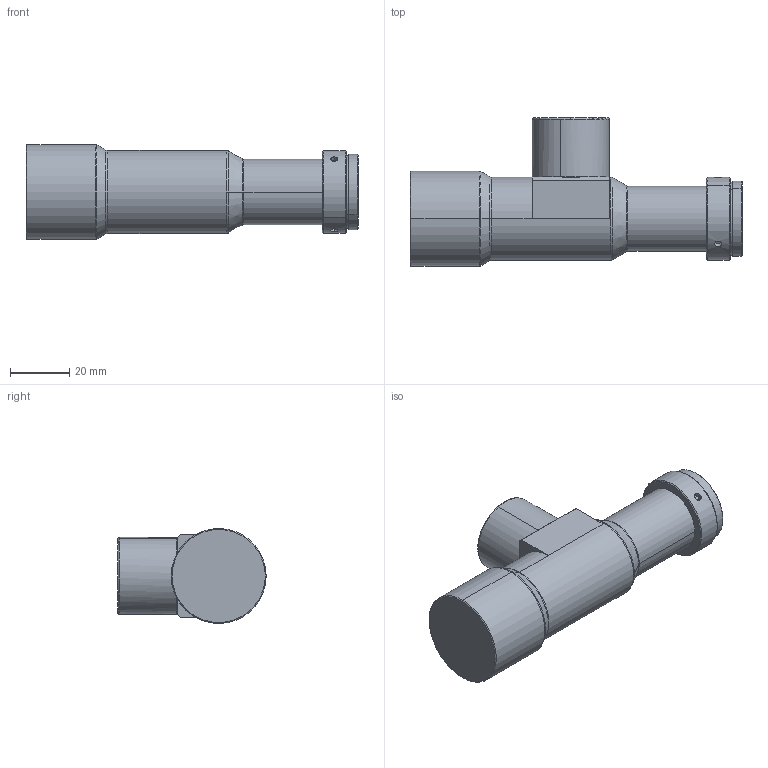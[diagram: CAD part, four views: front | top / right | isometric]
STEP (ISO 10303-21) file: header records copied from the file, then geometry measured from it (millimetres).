
FILE_DESCRIPTION (( 'STEP AP203' ), '1' );
FILE_NAME ('WWH10-108CTLV3.STEP', '2023-08-15T00:45:29', ( '' ), ( '' ), 'SwSTEP 2.0', 'SolidWorks 2017', '' );
FILE_SCHEMA (( 'CONFIG_CONTROL_DESIGN' ));
Length unit declared in the file: millimetre
Products named in the file (1): WWH10-108CTLV3
Bounding box: 111.9 x 50 x 32 mm (x, y, z)
Volume: 78974.9 mm3; surface area: 13645.6 mm2
Topology: 1 solids, 10 shells, 121 faces, 248 edges, 154 vertices
Faces by surface type: cylinder 47, plane 34, cone 30, torus 10
Entity records: 3662 total; most frequent: CARTESIAN_POINT 1064, DIRECTION 542, ORIENTED_EDGE 496, EDGE_CURVE 248, AXIS2_PLACEMENT_3D 229, VERTEX_POINT 154, EDGE_LOOP 128, ADVANCED_FACE 121
